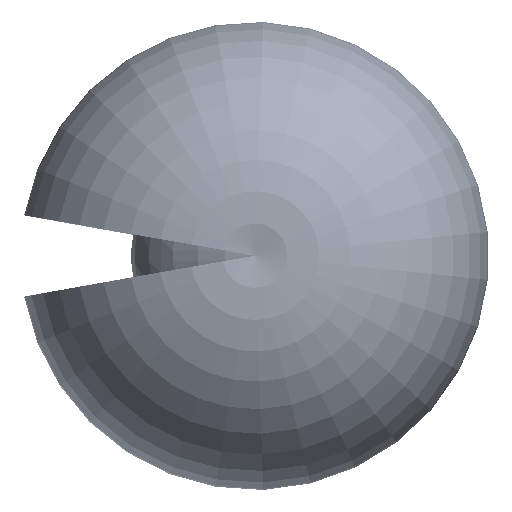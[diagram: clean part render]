
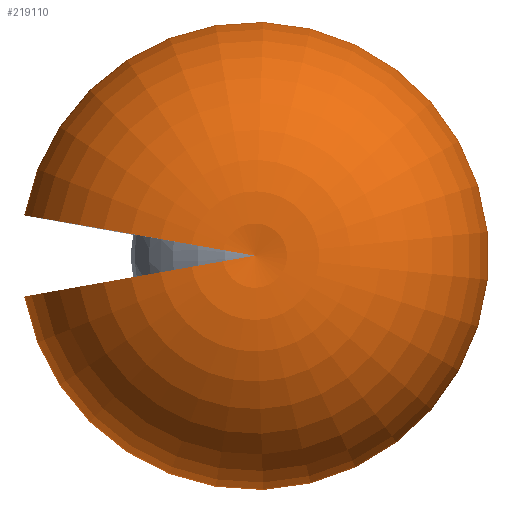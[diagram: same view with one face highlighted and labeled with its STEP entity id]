
A CAD part, top view. The second image highlights one B-rep face of the part: STEP entity #219110.
In plain terms, the highlighted toroidal (fillet/blend) face has major radius 695 mm and minor radius 3212.88 mm.
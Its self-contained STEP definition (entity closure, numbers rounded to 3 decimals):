
#4409 = DIRECTION ( 'NONE',  ( 0., 0., 1. ) ) ;
#6139 = AXIS2_PLACEMENT_3D ( 'NONE', #364319, #304068, #96039 ) ;
#16166 = DIRECTION ( 'NONE',  ( -1., 0., 0. ) ) ;
#16738 = EDGE_LOOP ( 'NONE', ( #192887, #182615, #175746, #111807, #57160 ) ) ;
#49817 = DIRECTION ( 'NONE',  ( 0., 0., 1. ) ) ;
#56153 = DIRECTION ( 'NONE',  ( -1., 0., 0. ) ) ;
#57160 = ORIENTED_EDGE ( 'NONE', *, *, #325701, .T. ) ;
#84111 = DIRECTION ( 'NONE',  ( -1., 0., 0. ) ) ;
#84378 = CARTESIAN_POINT ( 'NONE',  ( 0., 0., 3667.908 ) ) ;
#85920 = DIRECTION ( 'NONE',  ( 0.174, -0.985, 0. ) ) ;
#96039 = DIRECTION ( 'NONE',  ( -1., 0., 0. ) ) ;
#101536 = EDGE_CURVE ( 'NONE', #288026, #187066, #211037, .T. ) ;
#106582 = VERTEX_POINT ( 'NONE', #228492 ) ;
#111807 = ORIENTED_EDGE ( 'NONE', *, *, #115936, .T. ) ;
#115936 = EDGE_CURVE ( 'NONE', #290169, #106582, #124320, .T. ) ;
#124320 = CIRCLE ( 'NONE', #347895, 5. ) ;
#125201 = AXIS2_PLACEMENT_3D ( 'NONE', #270678, #85920, #4409 ) ;
#142506 = DIRECTION ( 'NONE',  ( 0., 0., -1. ) ) ;
#164255 = CARTESIAN_POINT ( 'NONE',  ( -1771.615, 311.502, -2489.115 ) ) ;
#169776 = CARTESIAN_POINT ( 'NONE',  ( -5., 0., 3667.908 ) ) ;
#175746 = ORIENTED_EDGE ( 'NONE', *, *, #218064, .T. ) ;
#182615 = ORIENTED_EDGE ( 'NONE', *, *, #101536, .F. ) ;
#187066 = VERTEX_POINT ( 'NONE', #164255 ) ;
#191087 = CARTESIAN_POINT ( 'NONE',  ( -5., 0., 3667.908 ) ) ;
#192887 = ORIENTED_EDGE ( 'NONE', *, *, #229712, .F. ) ;
#211037 = CIRCLE ( 'NONE', #279618, 3212.875 ) ;
#212068 = CIRCLE ( 'NONE', #243223, 5. ) ;
#218064 = EDGE_CURVE ( 'NONE', #288026, #290169, #212068, .T. ) ;
#219110 = ADVANCED_FACE ( 'NONE', ( #293275 ), #290691, .T. ) ;
#228492 = CARTESIAN_POINT ( 'NONE',  ( -9.924, -0.868, 3667.908 ) ) ;
#229712 = EDGE_CURVE ( 'NONE', #187066, #344883, #248352, .T. ) ;
#243223 = AXIS2_PLACEMENT_3D ( 'NONE', #169776, #142506, #84111 ) ;
#248352 = CIRCLE ( 'NONE', #6139, 1793.868 ) ;
#270678 = CARTESIAN_POINT ( 'NONE',  ( -689.441, -120.685, 530. ) ) ;
#279618 = AXIS2_PLACEMENT_3D ( 'NONE', #345196, #316052, #49817 ) ;
#282090 = CARTESIAN_POINT ( 'NONE',  ( -1771.615, -311.502, -2489.115 ) ) ;
#288026 = VERTEX_POINT ( 'NONE', #342548 ) ;
#289483 = DIRECTION ( 'NONE',  ( 0., 0., -1. ) ) ;
#290169 = VERTEX_POINT ( 'NONE', #84378 ) ;
#290691 = TOROIDAL_SURFACE ( 'NONE', #340229, 695., 3212.875 ) ;
#293275 = FACE_OUTER_BOUND ( 'NONE', #16738, .T. ) ;
#299204 = CIRCLE ( 'NONE', #125201, 3212.875 ) ;
#304068 = DIRECTION ( 'NONE',  ( 0., 0., -1. ) ) ;
#311587 = DIRECTION ( 'NONE',  ( 0., 0., -1. ) ) ;
#316052 = DIRECTION ( 'NONE',  ( -0.174, -0.985, 0. ) ) ;
#325701 = EDGE_CURVE ( 'NONE', #106582, #344883, #299204, .T. ) ;
#340229 = AXIS2_PLACEMENT_3D ( 'NONE', #347765, #289483, #56153 ) ;
#342548 = CARTESIAN_POINT ( 'NONE',  ( -9.924, 0.868, 3667.908 ) ) ;
#344883 = VERTEX_POINT ( 'NONE', #282090 ) ;
#345196 = CARTESIAN_POINT ( 'NONE',  ( -689.441, 120.685, 530. ) ) ;
#347765 = CARTESIAN_POINT ( 'NONE',  ( -5., 0., 530. ) ) ;
#347895 = AXIS2_PLACEMENT_3D ( 'NONE', #191087, #311587, #16166 ) ;
#364319 = CARTESIAN_POINT ( 'NONE',  ( -5., 0., -2489.115 ) ) ;
